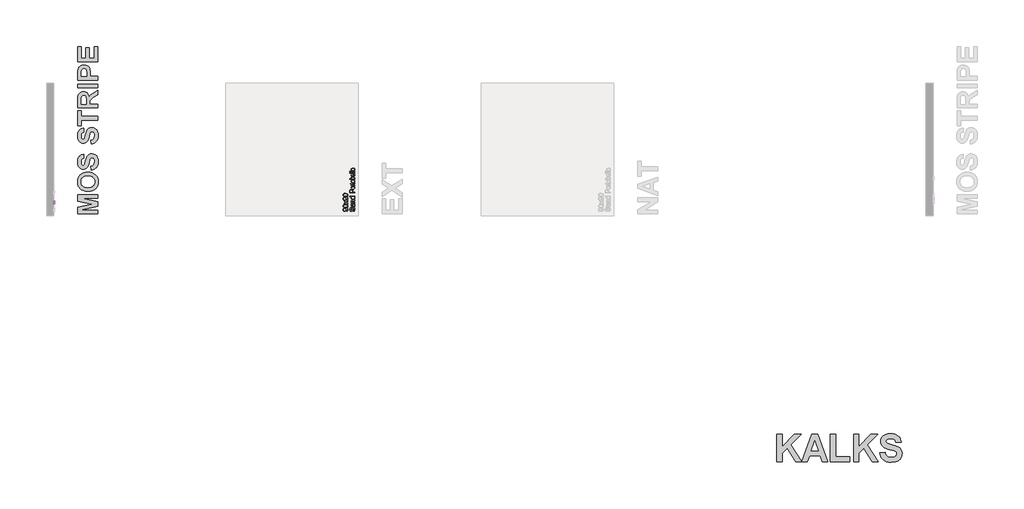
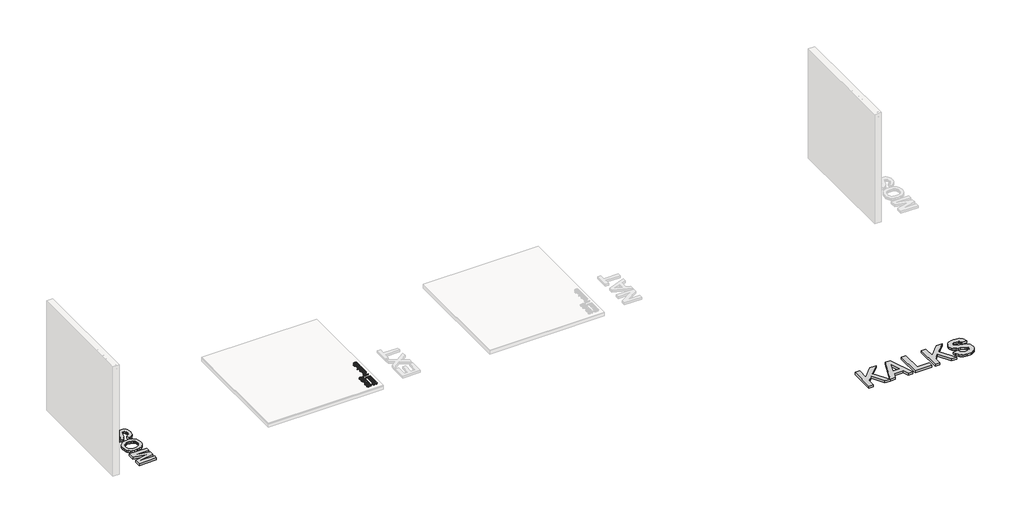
# One storey, part 2 of 19: 6 proxies.
"""IFC4 building model written with IfcOpenShell, lengths in millimetres."""

from ifc_helpers import new_model, si_unit, frame, origin, origin_with_axes, place, context, project, spatial, polyline, outline, extrude, element, save

model = new_model("IFC4")

# Units and contexts
model_context = context("Model", 3, world=origin())
ifc_project = project(units=[si_unit("LENGTHUNIT", "METRE", prefix="MILLI")], contexts=[model_context])

# Site, building, storey
site = spatial("IfcSite", under=ifc_project)
building = spatial("IfcBuilding", under=site)
storey = spatial("IfcBuildingStorey", under=building, Name="PORTOBELLO - SHOWROOM", Elevation=0.0)

# Proxies
placement = place(None, origin())
element("IfcBuildingElementProxy", 1, Name="10mm Arial", ObjectType="10mm Arial", at=placement, inside=storey, context=model_context, shape_type="SweptSolid", body=[
    extrude(outline(polyline([(-11603.2913328, -7006.5341901), (-11603.2913328, -6993.9771514), (-11590.7220313, -6989.9304494), (-11582.7757802, -6980.0466865), (-11579.7468851, -6964.9880502), (-11582.0400162, -6951.8669257), (-11588.3430611, -6943.393377), (-11596.7675588, -6940.6097366), (-11604.6034453, -6942.6944012), (-11610.3056162, -6951.2292635), (-11615.1003449, -6969.5129987), (-11621.2930251, -6989.1946854), (-11630.6372278, -6999.875526), (-11643.1206902, -7003.3949304), (-11657.3331979, -6999.0416602), (-11667.3641136, -6986.3252059), (-11670.7854162, -6967.7103769), (-11667.2046981, -6947.8447492), (-11656.683273, -6934.6009973), (-11640.9624491, -6929.6223277), (-11640.9624491, -6942.1793664), (-11648.4549791, -6944.4847603), (-11653.8628444, -6949.2917517), (-11658.2283774, -6967.2198676), (-11653.9118953, -6985.1970344), (-11643.4885721, -6990.8378917), (-11634.7820316, -6986.8402407), (-11627.7677482, -6966.3369508), (-11621.4647034, -6944.1168783), (-11611.2866348, -6931.9645097), (-11597.0863898, -6928.0526978), (-11582.0645417, -6932.5531209), (-11571.1016582, -6945.5025671), (-11567.1898463, -6964.4975408), (-11571.4082266, -6986.9260798), (-11584.1124181, -7001.1140621), (-11603.2913328, -7006.5341901)])), frame((0.0, 0.0, 18.0), z_axis=(0.0, 0.0, 1.0), x_axis=(1.0, 0.0, 0.0)), (0.0, 0.0, 1.0), 20.0),
    extrude(outline(polyline([(-11578.1772553, -6863.6978741), (-11569.6669185, -6875.8747682), (-11567.1898463, -6889.3269865), (-11568.6797684, -6899.8208204), (-11573.1495347, -6907.5616707), (-11579.9369575, -6912.3349396), (-11588.3798493, -6913.9260292), (-11598.3126631, -6911.5225335), (-11605.5231502, -6905.2072259), (-11609.6434286, -6896.4148462), (-11611.5318895, -6885.5500647), (-11615.8483716, -6863.7714505), (-11618.6442747, -6863.6978741), (-11627.914901, -6867.1559649), (-11631.54467, -6881.0373789), (-11629.1289116, -6893.7415704), (-11620.5572611, -6899.7993606), (-11622.126891, -6912.3563994), (-11634.3896241, -6906.9240086), (-11641.5755858, -6895.9856506), (-11644.1017088, -6879.4186981), (-11641.8698914, -6864.2006462), (-11636.2658223, -6855.6044703), (-11627.7432228, -6851.753972), (-11616.7558138, -6851.1408354), (-11601.1330918, -6851.1408354), (-11579.3176895, -6850.5031733), (-11568.7594762, -6848.0015757), (-11568.7594762, -6860.5586145), (-11578.1772553, -6863.6978741)]), holes=[polyline([(-11603.2913328, -6863.6978741), (-11599.4408346, -6883.9559093), (-11597.4052209, -6894.7593773), (-11594.0942829, -6899.6522078), (-11589.2627661, -6901.3689905), (-11582.4692119, -6897.6288568), (-11579.7468851, -6886.6537106), (-11582.7512547, -6873.9495191), (-11590.0230555, -6865.7580133), (-11599.7351402, -6863.7714505), (-11603.2913328, -6863.6978741)])]), frame((0.0, 0.0, 18.0), z_axis=(0.0, 0.0, 1.0), x_axis=(1.0, 0.0, 0.0)), (0.0, 0.0, 1.0), 20.0),
    extrude(outline(polyline([(-11568.7594762, -6833.8749071), (-11642.532079, -6833.8749071), (-11642.532079, -6821.3178683), (-11632.2313831, -6821.3178683), (-11641.1341274, -6811.7161482), (-11644.1017088, -6798.6072865), (-11641.7104758, -6786.7492235), (-11635.4319565, -6778.6558196), (-11626.1981184, -6774.8911605), (-11614.0580125, -6774.2289729), (-11568.7594762, -6774.2289729), (-11568.7594762, -6786.7860117), (-11612.3657554, -6786.7860117), (-11623.4757916, -6788.2330142), (-11629.3496408, -6793.3465739), (-11631.54467, -6801.9672754), (-11626.6150513, -6815.5911719), (-11619.4720092, -6819.8861942), (-11607.9021205, -6821.3178683), (-11568.7594762, -6821.3178683), (-11568.7594762, -6833.8749071)])), frame((0.0, 0.0, 18.0), z_axis=(0.0, 0.0, 1.0), x_axis=(1.0, 0.0, 0.0)), (0.0, 0.0, 1.0), 20.0),
    extrude(outline(polyline([(-11568.7594762, -6711.4437791), (-11580.6052764, -6711.4437791), (-11570.5437039, -6719.7517808), (-11567.1898463, -6731.2358304), (-11572.0458887, -6746.7849761), (-11585.5962088, -6757.772385), (-11605.5722012, -6761.6719341), (-11625.5604563, -6758.0789533), (-11639.3192429, -6747.3122736), (-11644.1017088, -6731.2848813), (-11640.6804063, -6719.7088612), (-11631.7899247, -6711.4437791), (-11669.2157863, -6711.4437791), (-11669.2157863, -6698.8867403), (-11568.7594762, -6698.8867403), (-11568.7594762, -6711.4437791)]), holes=[polyline([(-11605.6212521, -6749.1148954), (-11594.2628955, -6747.6985497), (-11586.18482, -6743.4495127), (-11581.3563688, -6737.2752265), (-11579.7468851, -6730.0831335), (-11581.2827924, -6722.8941062), (-11585.8905144, -6716.8761699), (-11593.6558902, -6712.8018768), (-11604.6647589, -6711.4437791), (-11616.7006315, -6712.8264022), (-11625.0454215, -6716.9742717), (-11629.9198579, -6723.1454922), (-11631.54467, -6730.5981683), (-11629.9842372, -6737.8638377), (-11625.3029389, -6743.8173947), (-11617.2616516, -6747.7905202), (-11605.6212521, -6749.1148954)])]), frame((0.0, 0.0, 18.0), z_axis=(0.0, 0.0, 1.0), x_axis=(1.0, 0.0, 0.0)), (0.0, 0.0, 1.0), 20.0),
])
element("IfcBuildingElementProxy", 2, Name="10mm Arial", ObjectType="10mm Arial", at=placement, inside=storey, context=model_context, shape_type="SweptSolid", body=[
    extrude(outline(polyline([(-11733.8735537, -7004.9645603), (-11735.4431836, -6992.4075215), (-11723.4624933, -6986.7666643), (-11719.7468851, -6976.0735609), (-11722.1381181, -6965.9077551), (-11728.5270021, -6959.0160991), (-11739.4408346, -6954.9080835), (-11754.0089616, -6953.093199), (-11756.4615082, -6953.1667754), (-11746.9456273, -6963.2099538), (-11743.2913328, -6976.9810032), (-11745.5231502, -6988.4313303), (-11752.2186026, -6997.9625397), (-11762.562218, -7004.3912775), (-11775.7385248, -7006.5341901), (-11789.3501586, -7004.2870443), (-11800.0187365, -6997.5456067), (-11806.9165239, -6987.4196548), (-11809.2157863, -6975.0189659), (-11803.9673365, -6957.1276382), (-11789.0068021, -6944.8158541), (-11760.9006176, -6940.6097366), (-11730.4032002, -6944.8035913), (-11720.4121384, -6950.0183186), (-11713.1250092, -6957.274791), (-11708.6736371, -6966.2603087), (-11707.1898463, -6976.6621721), (-11708.9403515, -6987.398195), (-11714.191867, -6995.9637141), (-11722.613299, -7001.9540593), (-11733.8735537, -7004.9645603)]), holes=[polyline([(-11776.0328304, -6953.1667754), (-11784.5431672, -6954.5218074), (-11791.0914667, -6958.5869034), (-11795.2669274, -6964.8960797), (-11796.6587476, -6972.9833522), (-11795.1596284, -6981.3710617), (-11790.6622711, -6988.0910394), (-11783.7798121, -6992.5056234), (-11775.1253881, -6993.9771514), (-11767.3661437, -6992.5853312), (-11761.207186, -6988.4098705), (-11757.1880752, -6981.8554396), (-11755.8483716, -6973.3267087), (-11761.207186, -6958.8444208), (-11767.5930043, -6954.5861867), (-11776.0328304, -6953.1667754)])]), frame((0.0, 0.0, 18.0), z_axis=(0.0, 0.0, 1.0), x_axis=(1.0, 0.0, 0.0)), (0.0, 0.0, 1.0), 20.0),
    extrude(outline(polyline([(-11758.1782909, -6929.6223277), (-11787.081553, -6925.931245), (-11803.7466074, -6914.9683615), (-11809.2157863, -6896.6601009), (-11805.9784248, -6881.993872), (-11796.6464848, -6871.8648544), (-11781.7840522, -6865.9787425), (-11758.1782909, -6863.6978741), (-11729.3976561, -6867.3521686), (-11712.6958135, -6878.2782639), (-11708.5663381, -6886.5096235), (-11707.1898463, -6896.6601009), (-11709.5810793, -6909.707649), (-11716.7547782, -6919.6159374), (-11733.744795, -6927.1207301), (-11758.1782909, -6929.6223277)]), holes=[polyline([(-11758.2028163, -6917.0652889), (-11738.4506189, -6915.5937609), (-11727.0186859, -6911.179177), (-11721.5648353, -6904.606352), (-11719.7468851, -6896.6601009), (-11721.5709667, -6888.7138498), (-11727.0432114, -6882.1410248), (-11738.4812757, -6877.7264409), (-11758.2028163, -6876.2549129), (-11777.5104897, -6877.67739), (-11789.0313275, -6881.9448211), (-11794.7518926, -6888.5053834), (-11796.6587476, -6896.8072537), (-11794.9787531, -6904.6676657), (-11789.9387698, -6910.9829733), (-11777.7005621, -6915.54471), (-11758.2028163, -6917.0652889)])]), frame((0.0, 0.0, 18.0), z_axis=(0.0, 0.0, 1.0), x_axis=(1.0, 0.0, 0.0)), (0.0, 0.0, 1.0), 20.0),
    extrude(outline(polyline([(-11708.7594762, -6857.4193548), (-11745.8665068, -6830.5884946), (-11782.532079, -6855.8497249), (-11782.532079, -6840.7910886), (-11764.8492177, -6828.6019318), (-11756.5350846, -6822.8874981), (-11763.3531643, -6817.9333539), (-11782.532079, -6804.05194), (-11782.532079, -6788.9442527), (-11745.8419813, -6815.4808073), (-11708.7594762, -6789.9252714), (-11708.7594762, -6805.0084332), (-11731.0776506, -6820.410426), (-11735.1734034, -6823.2063292), (-11708.7594762, -6842.3116675), (-11708.7594762, -6857.4193548)])), frame((0.0, 0.0, 18.0), z_axis=(0.0, 0.0, 1.0), x_axis=(1.0, 0.0, 0.0)), (0.0, 0.0, 1.0), 20.0),
    extrude(outline(polyline([(-11733.8735537, -6780.5074923), (-11735.4431836, -6767.9504535), (-11723.4624933, -6762.3095963), (-11719.7468851, -6751.6164929), (-11722.1381181, -6741.4506871), (-11728.5270021, -6734.5590311), (-11739.4408346, -6730.4510155), (-11754.0089616, -6728.636131), (-11756.4615082, -6728.7097074), (-11746.9456273, -6738.7528858), (-11743.2913328, -6752.5239352), (-11745.5231502, -6763.9742623), (-11752.2186026, -6773.5054717), (-11762.562218, -6779.9342095), (-11775.7385248, -6782.0771221), (-11789.3501586, -6779.8299763), (-11800.0187365, -6773.0885387), (-11806.9165239, -6762.9625868), (-11809.2157863, -6750.5618979), (-11803.9673365, -6732.6705702), (-11789.0068021, -6720.3587861), (-11760.9006176, -6716.1526686), (-11730.4032002, -6720.3465234), (-11720.4121384, -6725.5612506), (-11713.1250092, -6732.817723), (-11708.6736371, -6741.8032407), (-11707.1898463, -6752.2051041), (-11708.9403515, -6762.941127), (-11714.191867, -6771.5066462), (-11722.613299, -6777.4969913), (-11733.8735537, -6780.5074923)]), holes=[polyline([(-11776.0328304, -6728.7097074), (-11784.5431672, -6730.0647394), (-11791.0914667, -6734.1298354), (-11795.2669274, -6740.4390117), (-11796.6587476, -6748.5262842), (-11795.1596284, -6756.9139937), (-11790.6622711, -6763.6339715), (-11783.7798121, -6768.0485554), (-11775.1253881, -6769.5200834), (-11767.3661437, -6768.1282632), (-11761.207186, -6763.9528025), (-11757.1880752, -6757.3983716), (-11755.8483716, -6748.8696407), (-11761.207186, -6734.3873528), (-11767.5930043, -6730.1291187), (-11776.0328304, -6728.7097074)])]), frame((0.0, 0.0, 18.0), z_axis=(0.0, 0.0, 1.0), x_axis=(1.0, 0.0, 0.0)), (0.0, 0.0, 1.0), 20.0),
    extrude(outline(polyline([(-11758.1782909, -6705.1652597), (-11787.081553, -6701.474177), (-11803.7466074, -6690.5112935), (-11809.2157863, -6672.2030329), (-11805.9784248, -6657.536804), (-11796.6464848, -6647.4077864), (-11781.7840522, -6641.5216745), (-11758.1782909, -6639.2408062), (-11729.3976561, -6642.8951006), (-11712.6958135, -6653.8211959), (-11708.5663381, -6662.0525555), (-11707.1898463, -6672.2030329), (-11709.5810793, -6685.250581), (-11716.7547782, -6695.1588694), (-11733.744795, -6702.6636621), (-11758.1782909, -6705.1652597)]), holes=[polyline([(-11758.2028163, -6692.6082209), (-11738.4506189, -6691.1366929), (-11727.0186859, -6686.722109), (-11721.5648353, -6680.149284), (-11719.7468851, -6672.2030329), (-11721.5709667, -6664.2567818), (-11727.0432114, -6657.6839568), (-11738.4812757, -6653.2693729), (-11758.2028163, -6651.7978449), (-11777.5104897, -6653.220322), (-11789.0313275, -6657.4877531), (-11794.7518926, -6664.0483154), (-11796.6587476, -6672.3501857), (-11794.9787531, -6680.2105977), (-11789.9387698, -6686.5259053), (-11777.7005621, -6691.087642), (-11758.2028163, -6692.6082209)])]), frame((0.0, 0.0, 18.0), z_axis=(0.0, 0.0, 1.0), x_axis=(1.0, 0.0, 0.0)), (0.0, 0.0, 1.0), 20.0),
])
element("IfcBuildingElementProxy", 3, Name="10mm Arial", ObjectType="10mm Arial", at=placement, inside=storey, context=model_context, shape_type="SweptSolid", body=[
    extrude(outline(polyline([(-7011.3816689, 2410.158275), (-6998.8246301, 2411.7279049), (-6991.8961859, 2398.5086785), (-6978.9344769, 2394.4619766), (-6970.3260382, 2395.8537968), (-6963.6796368, 2400.0292574), (-6958.0142541, 2413.8125695), (-6963.6305859, 2426.798804), (-6977.9044073, 2431.9368892), (-6986.7090497, 2430.563463), (-6985.3110982, 2443.1205018), (-6983.3000099, 2442.973349), (-6969.050714, 2446.5785926), (-6964.3050362, 2451.152592), (-6962.7231437, 2457.6641034), (-6967.3094059, 2467.4865526), (-6979.1306806, 2471.373839), (-6991.0991082, 2467.4497644), (-6997.2550003, 2455.6775406), (-7009.812039, 2457.2471704), (-7006.114825, 2468.5227536), (-6999.5358686, 2476.9411199), (-6990.5350225, 2482.1834383), (-6979.572139, 2483.9308778), (-6964.4276636, 2480.4850498), (-6953.8326621, 2471.0672707), (-6950.1661049, 2458.3998673), (-6953.6487211, 2446.8238472), (-6963.949417, 2438.5097141), (-6950.2642067, 2429.9258009), (-6945.4572153, 2413.5918403), (-6947.860711, 2401.3536326), (-6955.0711982, 2391.1265132), (-6965.9543738, 2384.2103317), (-6979.3759353, 2381.9049378), (-6991.5160411, 2383.8731065), (-7001.3998041, 2389.7776125), (-7008.273066, 2398.8091155), (-7011.3816689, 2410.158275)])), frame((-17694.205047, 0.0, 0.0), z_axis=(1.0, 0.0, 0.0), x_axis=(0.0, 1.0, 0.0)), (0.0, 0.0, 1.0), 20.0),
    extrude(outline(polyline([(-6934.4698064, 2432.8933823), (-6930.7787237, 2461.7966444), (-6919.8158403, 2478.4616988), (-6901.5075797, 2483.9308778), (-6886.8413508, 2480.6935163), (-6876.7123332, 2471.3615763), (-6870.8262213, 2456.4991437), (-6868.5453529, 2432.8933823), (-6872.1996474, 2404.1127476), (-6883.1257426, 2387.410905), (-6891.3571023, 2383.2814296), (-6901.5075797, 2381.9049378), (-6914.5551277, 2384.2961708), (-6924.4634162, 2391.4698697), (-6931.9682089, 2408.4598865), (-6934.4698064, 2432.8933823)]), holes=[polyline([(-6921.9127677, 2432.9179078), (-6920.4412397, 2413.1657104), (-6916.0266557, 2401.7337774), (-6909.4538308, 2396.2799268), (-6901.5075797, 2394.4619766), (-6893.5613286, 2396.2860581), (-6886.9885036, 2401.7583028), (-6882.5739196, 2413.1963672), (-6881.1023917, 2432.9179078), (-6882.5248687, 2452.2255812), (-6886.7922998, 2463.746419), (-6893.3528621, 2469.466984), (-6901.6547325, 2471.373839), (-6909.5151444, 2469.6938446), (-6915.830452, 2464.6538613), (-6920.3921887, 2452.4156536), (-6921.9127677, 2432.9179078)])]), frame((-17694.205047, 0.0, 0.0), z_axis=(1.0, 0.0, 0.0), x_axis=(0.0, 1.0, 0.0)), (0.0, 0.0, 1.0), 20.0),
    extrude(outline(polyline([(-6862.2668335, 2383.4745677), (-6835.4359733, 2420.5815982), (-6860.6972037, 2457.2471704), (-6845.6385673, 2457.2471704), (-6833.4494105, 2439.5643092), (-6827.7349769, 2431.2501761), (-6822.7808327, 2438.0682557), (-6808.8994187, 2457.2471704), (-6793.7917315, 2457.2471704), (-6820.3282861, 2420.5570728), (-6794.7727501, 2383.4745677), (-6809.8559119, 2383.4745677), (-6825.2579048, 2405.792742), (-6828.053808, 2409.8884949), (-6847.1591462, 2383.4745677), (-6862.2668335, 2383.4745677)])), frame((-17694.205047, 0.0, 0.0), z_axis=(1.0, 0.0, 0.0), x_axis=(0.0, 1.0, 0.0)), (0.0, 0.0, 1.0), 20.0),
    extrude(outline(polyline([(-6786.9246009, 2410.158275), (-6774.3675621, 2411.7279049), (-6767.4391179, 2398.5086785), (-6754.4774089, 2394.4619766), (-6745.8689702, 2395.8537968), (-6739.2225688, 2400.0292574), (-6733.5571861, 2413.8125695), (-6739.1735179, 2426.798804), (-6753.4473393, 2431.9368892), (-6762.2519817, 2430.563463), (-6760.8540302, 2443.1205018), (-6758.8429419, 2442.973349), (-6744.593646, 2446.5785926), (-6739.8479682, 2451.152592), (-6738.2660757, 2457.6641034), (-6742.8523379, 2467.4865526), (-6754.6736126, 2471.373839), (-6766.6420402, 2467.4497644), (-6772.7979323, 2455.6775406), (-6785.354971, 2457.2471704), (-6781.657757, 2468.5227536), (-6775.0788006, 2476.9411199), (-6766.0779545, 2482.1834383), (-6755.115071, 2483.9308778), (-6739.9705956, 2480.4850498), (-6729.3755941, 2471.0672707), (-6725.7090369, 2458.3998673), (-6729.1916531, 2446.8238472), (-6739.492349, 2438.5097141), (-6725.8071388, 2429.9258009), (-6721.0001474, 2413.5918403), (-6723.4036431, 2401.3536326), (-6730.6141302, 2391.1265132), (-6741.4973059, 2384.2103317), (-6754.9188673, 2381.9049378), (-6767.0589732, 2383.8731065), (-6776.9427361, 2389.7776125), (-6783.815998, 2398.8091155), (-6786.9246009, 2410.158275)])), frame((-17694.205047, 0.0, 0.0), z_axis=(1.0, 0.0, 0.0), x_axis=(0.0, 1.0, 0.0)), (0.0, 0.0, 1.0), 20.0),
    extrude(outline(polyline([(-6710.0127384, 2432.8933823), (-6706.3216557, 2461.7966444), (-6695.3587723, 2478.4616988), (-6677.0505117, 2483.9308778), (-6662.3842828, 2480.6935163), (-6652.2552652, 2471.3615763), (-6646.3691533, 2456.4991437), (-6644.0882849, 2432.8933823), (-6647.7425794, 2404.1127476), (-6658.6686746, 2387.410905), (-6666.9000343, 2383.2814296), (-6677.0505117, 2381.9049378), (-6690.0980598, 2384.2961708), (-6700.0063482, 2391.4698697), (-6707.5111409, 2408.4598865), (-6710.0127384, 2432.8933823)]), holes=[polyline([(-6697.4556997, 2432.9179078), (-6695.9841717, 2413.1657104), (-6691.5695877, 2401.7337774), (-6684.9967628, 2396.2799268), (-6677.0505117, 2394.4619766), (-6669.1042606, 2396.2860581), (-6662.5314356, 2401.7583028), (-6658.1168516, 2413.1963672), (-6656.6453237, 2432.9179078), (-6658.0678007, 2452.2255812), (-6662.3352319, 2463.746419), (-6668.8957941, 2469.466984), (-6677.1976645, 2471.373839), (-6685.0580764, 2469.6938446), (-6691.373384, 2464.6538613), (-6695.9351207, 2452.4156536), (-6697.4556997, 2432.9179078)])]), frame((-17694.205047, 0.0, 0.0), z_axis=(1.0, 0.0, 0.0), x_axis=(0.0, 1.0, 0.0)), (0.0, 0.0, 1.0), 20.0),
])
element("IfcBuildingElementProxy", 4, Name="10mm Arial Narrow", ObjectType="10mm Arial Narrow", at=placement, inside=storey, context=model_context, shape_type="SweptSolid", body=[
    extrude(outline(polyline([(-11568.7594762, -6627.1065049), (-11669.4780799, -6627.1065049), (-11669.4780799, -6595.8096202), (-11667.5997592, -6579.5139187), (-11658.119316, -6568.0409326), (-11641.1002072, -6563.7512541), (-11629.0243817, -6565.5375625), (-11619.3979879, -6570.8964877), (-11613.0967295, -6580.6402765), (-11610.99631, -6595.5811758), (-11610.99631, -6617.3595432), (-11568.7594762, -6617.3595432), (-11568.7594762, -6627.1065049)]), holes=[polyline([(-11622.3677653, -6617.3595432), (-11622.3677653, -6594.3881883), (-11626.8985795, -6578.5239929), (-11640.5671703, -6573.4982158), (-11650.7329467, -6575.9730303), (-11656.5328965, -6581.9506591), (-11658.1066247, -6594.6166327), (-11658.1066247, -6617.3595432), (-11622.3677653, -6617.3595432)])]), frame((0.0, 0.0, 18.0), z_axis=(0.0, 0.0, 1.0), x_axis=(1.0, 0.0, 0.0)), (0.0, 0.0, 1.0), 20.0),
    extrude(outline(polyline([(-11605.3105824, -6555.6287861), (-11621.9013579, -6553.6743172), (-11633.8534428, -6547.8109106), (-11641.0779973, -6538.9523439), (-11643.4861822, -6528.0123947), (-11641.0779973, -6517.1993591), (-11633.8534428, -6508.3154097), (-11622.0917283, -6502.375855), (-11606.0720638, -6500.3960034), (-11588.9101772, -6502.3409537), (-11576.767722, -6508.1758048), (-11569.5431674, -6517.024853), (-11567.1349826, -6528.0123947), (-11569.5495131, -6538.8730229), (-11576.7931047, -6547.7474538), (-11588.7515352, -6553.658453), (-11605.3105824, -6555.6287861)]), holes=[polyline([(-11605.3359651, -6545.8818244), (-11592.7842137, -6544.5777876), (-11583.9129556, -6540.665677), (-11578.6396971, -6534.8244802), (-11576.8819442, -6527.7331849), (-11578.6555613, -6521.0131117), (-11583.9764124, -6515.3210384), (-11592.8635347, -6511.4374834), (-11605.3359651, -6510.142965), (-11617.8496424, -6511.4470019), (-11626.7082092, -6515.3591125), (-11631.9814677, -6521.2003092), (-11633.7392206, -6528.2916046), (-11631.9719492, -6535.0592703), (-11626.6701351, -6540.7418251), (-11617.8020499, -6544.5968246), (-11605.3359651, -6545.8818244)])]), frame((0.0, 0.0, 18.0), z_axis=(0.0, 0.0, 1.0), x_axis=(1.0, 0.0, 0.0)), (0.0, 0.0, 1.0), 20.0),
    extrude(outline(polyline([(-11576.8819442, -6428.9182846), (-11567.1349826, -6427.293791), (-11567.1349826, -6434.6547776), (-11569.2544391, -6442.929542), (-11575.0543889, -6447.2446031), (-11589.7002141, -6448.4122079), (-11632.1147269, -6448.4122079), (-11632.1147269, -6456.5346759), (-11635.3637142, -6456.5346759), (-11630.4902333, -6458.1591695), (-11632.1147269, -6465.7232179), (-11629.7922087, -6471.8023776), (-11623.3069257, -6475.6732413), (-11607.8996191, -6477.6530929), (-11568.7594762, -6477.6530929), (-11568.7594762, -6487.4000545), (-11641.8616886, -6487.4000545), (-11641.8616886, -6477.6530929), (-11632.1654924, -6477.6530929), (-11641.2525035, -6471.4089455), (-11643.4861822, -6465.012502), (-11641.8616886, -6456.5346759), (-11641.8616886, -6448.4122079), (-11658.1066247, -6448.4122079), (-11666.2290927, -6438.6652462), (-11641.8616886, -6438.6652462), (-11641.8616886, -6428.9182846), (-11632.1147269, -6428.9182846), (-11632.1147269, -6438.6652462), (-11587.4665354, -6438.6652462), (-11579.4709809, -6437.802234), (-11576.8819442, -6433.1825803), (-11576.8819442, -6428.9182846)])), frame((0.0, 0.0, 18.0), z_axis=(0.0, 0.0, 1.0), x_axis=(1.0, 0.0, 0.0)), (0.0, 0.0, 1.0), 20.0),
    extrude(outline(polyline([(-11605.3105824, -6422.4203101), (-11621.9013579, -6420.4658413), (-11633.8534428, -6414.6024347), (-11641.0779973, -6405.7438679), (-11643.4861822, -6394.8039188), (-11641.0779973, -6383.9908832), (-11633.8534428, -6375.1069338), (-11622.0917283, -6369.167379), (-11606.0720638, -6367.1875274), (-11588.9101772, -6369.1324778), (-11576.767722, -6374.9673289), (-11569.5431674, -6383.8163771), (-11567.1349826, -6394.8039188), (-11569.5495131, -6405.664547), (-11576.7931047, -6414.5389779), (-11588.7515352, -6420.4499771), (-11605.3105824, -6422.4203101)]), holes=[polyline([(-11605.3359651, -6412.6733485), (-11592.7842137, -6411.3693116), (-11583.9129556, -6407.457201), (-11578.6396971, -6401.6160043), (-11576.8819442, -6394.524709), (-11578.6555613, -6387.8046358), (-11583.9764124, -6382.1125625), (-11592.8635347, -6378.2290074), (-11605.3359651, -6376.9344891), (-11617.8496424, -6378.238526), (-11626.7082092, -6382.1506365), (-11631.9814677, -6387.9918333), (-11633.7392206, -6395.0831286), (-11631.9719492, -6401.8507944), (-11626.6701351, -6407.5333492), (-11617.8020499, -6411.3883487), (-11605.3359651, -6412.6733485)])]), frame((0.0, 0.0, 18.0), z_axis=(0.0, 0.0, 1.0), x_axis=(1.0, 0.0, 0.0)), (0.0, 0.0, 1.0), 20.0),
    extrude(outline(polyline([(-11568.7594762, -6344.4446169), (-11568.7594762, -6354.1915786), (-11669.4780799, -6354.1915786), (-11669.4780799, -6344.4446169), (-11634.0691958, -6344.4446169), (-11641.1509726, -6337.0455562), (-11643.4861822, -6327.8443229), (-11639.2853433, -6314.9625962), (-11626.5559129, -6305.6852147), (-11605.8690021, -6302.2077831), (-11589.4146586, -6304.1400421), (-11577.2119195, -6309.9368191), (-11569.6542168, -6318.3099414), (-11567.1349826, -6327.9712364), (-11569.749402, -6337.3120747), (-11577.5165121, -6344.4446169), (-11568.7594762, -6344.4446169)]), holes=[polyline([(-11605.8690021, -6344.4446169), (-11588.6214488, -6342.3632345), (-11579.8897957, -6336.4744452), (-11576.8819442, -6328.0220018), (-11578.6714255, -6322.0792742), (-11584.0398692, -6316.8409169), (-11605.4628787, -6311.9547447), (-11626.8985795, -6316.6632379), (-11632.0290603, -6321.9079409), (-11633.7392206, -6328.2250635), (-11631.9497393, -6334.2026924), (-11626.5812956, -6339.494988), (-11605.8690021, -6344.4446169)])]), frame((0.0, 0.0, 18.0), z_axis=(0.0, 0.0, 1.0), x_axis=(1.0, 0.0, 0.0)), (0.0, 0.0, 1.0), 20.0),
    extrude(outline(polyline([(-11591.5023867, -6250.2239876), (-11589.8778931, -6240.477026), (-11579.9913265, -6244.1765563), (-11572.8714756, -6249.9955432), (-11568.5691059, -6257.6991965), (-11567.1349826, -6267.0527261), (-11569.5495131, -6278.6462801), (-11576.7931047, -6287.7904023), (-11588.599239, -6293.7299571), (-11604.7013973, -6295.7098087), (-11621.368321, -6293.7204386), (-11633.5488502, -6287.7523282), (-11641.0018492, -6278.7382924), (-11643.4861822, -6267.6111458), (-11641.0875159, -6256.9281966), (-11633.8915168, -6248.1806792), (-11622.1520122, -6242.3458282), (-11606.1228292, -6240.4008778), (-11602.873842, -6240.477026), (-11602.873842, -6285.962847), (-11583.4306841, -6279.9598355), (-11578.5191292, -6274.0297992), (-11576.8819442, -6266.9258125), (-11580.5370549, -6256.7473448), (-11591.5023867, -6250.2239876)]), holes=[polyline([(-11612.6208036, -6285.3028965), (-11612.6208036, -6250.2239876), (-11626.8858881, -6254.4882833), (-11632.0258874, -6260.3136159), (-11633.7392206, -6267.5349976), (-11628.0281102, -6279.7440824), (-11612.6208036, -6285.3028965)])]), frame((0.0, 0.0, 18.0), z_axis=(0.0, 0.0, 1.0), x_axis=(1.0, 0.0, 0.0)), (0.0, 0.0, 1.0), 20.0),
    extrude(outline(polyline([(-11568.7594762, -6227.4810771), (-11669.4780799, -6227.4810771), (-11669.4780799, -6217.7341154), (-11568.7594762, -6217.7341154), (-11568.7594762, -6227.4810771)])), frame((0.0, 0.0, 18.0), z_axis=(0.0, 0.0, 1.0), x_axis=(1.0, 0.0, 0.0)), (0.0, 0.0, 1.0), 20.0),
    extrude(outline(polyline([(-11568.7594762, -6201.4891793), (-11669.4780799, -6201.4891793), (-11669.4780799, -6191.7422177), (-11568.7594762, -6191.7422177), (-11568.7594762, -6201.4891793)])), frame((0.0, 0.0, 18.0), z_axis=(0.0, 0.0, 1.0), x_axis=(1.0, 0.0, 0.0)), (0.0, 0.0, 1.0), 20.0),
    extrude(outline(polyline([(-11605.3105824, -6180.3707624), (-11621.9013579, -6178.4162935), (-11633.8534428, -6172.5528869), (-11641.0779973, -6163.6943202), (-11643.4861822, -6152.7543711), (-11641.0779973, -6141.9413355), (-11633.8534428, -6133.0573861), (-11622.0917283, -6127.1178313), (-11606.0720638, -6125.1379797), (-11588.9101772, -6127.0829301), (-11576.767722, -6132.9177811), (-11569.5431674, -6141.7668293), (-11567.1349826, -6152.7543711), (-11569.5495131, -6163.6149992), (-11576.7931047, -6172.4894301), (-11588.7515352, -6178.4004294), (-11605.3105824, -6180.3707624)]), holes=[polyline([(-11605.3359651, -6170.6238008), (-11592.7842137, -6169.3197639), (-11583.9129556, -6165.4076533), (-11578.6396971, -6159.5664566), (-11576.8819442, -6152.4751612), (-11578.6555613, -6145.7550881), (-11583.9764124, -6140.0630147), (-11592.8635347, -6136.1794597), (-11605.3359651, -6134.8849414), (-11617.8496424, -6136.1889782), (-11626.7082092, -6140.1010888), (-11631.9814677, -6145.9422856), (-11633.7392206, -6153.0335809), (-11631.9719492, -6159.8012467), (-11626.6701351, -6165.4838015), (-11617.8020499, -6169.3388009), (-11605.3359651, -6170.6238008)])]), frame((0.0, 0.0, 18.0), z_axis=(0.0, 0.0, 1.0), x_axis=(1.0, 0.0, 0.0)), (0.0, 0.0, 1.0), 20.0),
])
element("IfcBuildingElementProxy", 5, Name="400mm Arial", ObjectType="400mm Arial", at=placement, inside=storey, context=model_context, shape_type="SweptSolid", body=[
    extrude(outline(polyline([(-16798.5507631, -7057.4361951), (-17206.6545231, -7057.4361951), (-17206.6545231, -6924.4380948), (-16928.3099447, -6859.8621526), (-17206.6545231, -6795.4886428), (-17206.6545231, -6662.2881101), (-16798.5507631, -6662.2881101), (-16798.5507631, -6740.0221596), (-17119.8110147, -6743.2610783), (-16798.5507631, -6814.314858), (-16798.5507631, -6905.2070148), (-17119.8110147, -6976.4632269), (-16798.5507631, -6979.7021456), (-16798.5507631, -7057.4361951)])), origin_with_axes(), (0.0, 0.0, 1.0), 50.0),
    extrude(outline(polyline([(-17000.0722379, -6597.5097355), (-17057.3100048, -6592.9297019), (-17104.5273669, -6579.1896014), (-17134.0192402, -6563.0329638), (-17160.3481069, -6541.8914279), (-17181.8945077, -6517.1314124), (-17197.0389831, -6490.1193363), (-17209.1090162, -6449.7846765), (-17213.1323606, -6403.6806927), (-17209.6435643, -6361.6127053), (-17199.1771756, -6323.9729271), (-17181.7331943, -6290.7613581), (-17157.3116206, -6261.9779983), (-17126.6779019, -6238.7299), (-17090.597486, -6222.1241155), (-17049.0703727, -6212.1606448), (-17002.0965621, -6208.8394879), (-16955.4422151, -6212.1353407), (-16914.1649794, -6222.0228992), (-16878.2648548, -6238.5021635), (-16847.7418413, -6261.5731334), (-16823.3866907, -6290.1667128), (-16805.9901546, -6323.2138055), (-16795.5522329, -6360.7144114), (-16792.0729257, -6402.6685306), (-16795.5364179, -6445.0654707), (-16805.9268944, -6482.8823773), (-16823.2443554, -6516.1192503), (-16847.4888008, -6544.7760899), (-16877.8062188, -6567.8470598), (-16913.3425976, -6584.3263241), (-16954.0979373, -6594.2138826), (-17000.0722379, -6597.5097355)]), holes=[polyline([(-17002.9062917, -6519.7756859), (-16970.6246467, -6517.7102426), (-16942.5055182, -6511.5139128), (-16918.5489065, -6501.1866963), (-16898.7548113, -6486.7285933), (-16883.2560791, -6469.0885056), (-16872.1855561, -6449.2153353), (-16865.5432423, -6427.1090824), (-16863.3291377, -6402.7697468), (-16865.5274273, -6378.4557153), (-16872.122296, -6356.4253745), (-16883.1137438, -6336.6787245), (-16898.5017708, -6319.2157652), (-16918.2863769, -6304.9347905), (-16942.4675622, -6294.7340943), (-16971.0453265, -6288.6136766), (-17004.0196701, -6286.5735374), (-17036.5353776, -6288.5599055), (-17064.64818, -6294.5190099), (-17088.3580773, -6304.4508505), (-17107.6650694, -6318.3554274), (-17122.6324165, -6335.5495311), (-17133.3233787, -6355.3499523), (-17139.7379561, -6377.7566908), (-17141.8761485, -6402.7697468), (-17139.712652, -6427.8081068), (-17133.2221625, -6450.2907576), (-17122.40468, -6470.217699), (-17107.2602046, -6487.5889311), (-17087.7571061, -6501.6706363), (-17063.8637544, -6511.7289972), (-17035.5801496, -6517.7640138), (-17002.9062917, -6519.7756859)])]), origin_with_axes(), (0.0, 0.0, 1.0), 50.0),
    extrude(outline(polyline([(-16934.5853498, -6163.4946256), (-16941.0631872, -6085.7605761), (-16906.295419, -6074.4243606), (-16882.1553528, -6055.395713), (-16868.0356915, -6028.5481132), (-16863.3291377, -5993.7550409), (-16867.4916544, -5957.6461579), (-16879.9792043, -5931.709504), (-16898.0336458, -5916.0715995), (-16918.8968372, -5910.8589647), (-16932.1182047, -5913.0224612), (-16943.2393358, -5919.5129507), (-16952.6397913, -5931.4185074), (-16960.699132, -5949.8272057), (-16978.007104, -6017.2372017), (-16995.8970692, -6074.7786173), (-17006.3413169, -6095.9960654), (-17017.7850747, -6112.178007), (-17035.5042375, -6128.9609199), (-17055.0579441, -6140.9487148), (-17076.4461946, -6148.1413917), (-17099.6689888, -6150.5389507), (-17129.7302033, -6146.1360456), (-17157.7670935, -6132.9273301), (-17181.578207, -6111.4188854), (-17198.9620911, -6082.1167925), (-17209.5897932, -6045.5018285), (-17213.1323606, -6002.0547702), (-17210.924582, -5966.1135265), (-17204.3012462, -5934.9104667), (-17193.2623533, -5908.4455907), (-17177.8079032, -5886.7188985), (-17158.6717134, -5869.6608041), (-17136.5876015, -5857.2017212), (-17111.5555675, -5849.3416499), (-17083.5756114, -5846.0805901), (-17083.5756114, -5923.8146396), (-17110.2840389, -5932.4053655), (-17128.2625682, -5947.2461923), (-17138.4727534, -5969.703539), (-17141.8761485, -6001.1438243), (-17138.257669, -6034.2415251), (-17127.4022304, -6059.241929), (-17116.5214878, -6069.4141582), (-17102.5030427, -6072.8049012), (-17089.2690232, -6069.7178068), (-17078.109936, -6060.4565235), (-17065.0403929, -6033.5709677), (-17051.5406808, -5984.2913253), (-17037.4969316, -5931.696852), (-17022.7952771, -5894.8668035), (-17004.9938761, -5869.0566698), (-16981.6508876, -5849.5219412), (-16952.475315, -5837.2241717), (-16917.1761616, -5833.1249152), (-16883.4711636, -5837.9706412), (-16851.9929222, -5852.5078194), (-16825.5248832, -5875.9140681), (-16806.8504924, -5907.3670054), (-16795.7673173, -5947.2082362), (-16792.0729257, -5995.7793651), (-16794.3471274, -6032.1033326), (-16801.1697326, -6063.9484828), (-16812.5407412, -6091.3148157), (-16828.4601533, -6114.2023312), (-16848.7381884, -6132.7691798), (-16873.1850662, -6147.1735117), (-16901.8007867, -6157.415327), (-16934.5853498, -6163.4946256)])), origin_with_axes(), (0.0, 0.0, 1.0), 50.0),
    extrude(outline(polyline([(-16934.5853498, -5632.3119539), (-16941.0631872, -5554.5779044), (-16906.295419, -5543.2416888), (-16882.1553528, -5524.2130413), (-16868.0356915, -5497.3654415), (-16863.3291377, -5462.5723692), (-16867.4916544, -5426.4634862), (-16879.9792043, -5400.5268323), (-16898.0336458, -5384.8889278), (-16918.8968372, -5379.676293), (-16932.1182047, -5381.8397895), (-16943.2393358, -5388.330279), (-16952.6397913, -5400.2358357), (-16960.699132, -5418.6445339), (-16978.007104, -5486.05453), (-16995.8970692, -5543.5959456), (-17006.3413169, -5564.8133937), (-17017.7850747, -5580.9953353), (-17035.5042375, -5597.7782482), (-17055.0579441, -5609.7660431), (-17076.4461946, -5616.95872), (-17099.6689888, -5619.356279), (-17129.7302033, -5614.9533738), (-17157.7670935, -5601.7446584), (-17181.578207, -5580.2362137), (-17198.9620911, -5550.9341208), (-17209.5897932, -5514.3191567), (-17213.1323606, -5470.8720985), (-17210.924582, -5434.9308548), (-17204.3012462, -5403.7277949), (-17193.2623533, -5377.262919), (-17177.8079032, -5355.5362268), (-17158.6717134, -5338.4781324), (-17136.5876015, -5326.0190495), (-17111.5555675, -5318.1589781), (-17083.5756114, -5314.8979184), (-17083.5756114, -5392.6319679), (-17110.2840389, -5401.2226937), (-17128.2625682, -5416.0635206), (-17138.4727534, -5438.5208672), (-17141.8761485, -5469.9611526), (-17138.257669, -5503.0588533), (-17127.4022304, -5528.0592573), (-17116.5214878, -5538.2314864), (-17102.5030427, -5541.6222295), (-17089.2690232, -5538.5351351), (-17078.109936, -5529.2738518), (-17065.0403929, -5502.3882959), (-17051.5406808, -5453.1086536), (-17037.4969316, -5400.5141803), (-17022.7952771, -5363.6841317), (-17004.9938761, -5337.8739981), (-16981.6508876, -5318.3392695), (-16952.475315, -5306.0415), (-16917.1761616, -5301.9422435), (-16883.4711636, -5306.7879695), (-16851.9929222, -5321.3251477), (-16825.5248832, -5344.7313964), (-16806.8504924, -5376.1843337), (-16795.7673173, -5416.0255645), (-16792.0729257, -5464.5966934), (-16794.3471274, -5500.9206609), (-16801.1697326, -5532.7658111), (-16812.5407412, -5560.1321439), (-16828.4601533, -5583.0196595), (-16848.7381884, -5601.5865081), (-16873.1850662, -5615.99084), (-16901.8007867, -5626.2326553), (-16934.5853498, -5632.3119539)])), origin_with_axes(), (0.0, 0.0, 1.0), 50.0),
    extrude(outline(polyline([(-16798.5507631, -5146.4741444), (-17135.398311, -5146.4741444), (-17135.398311, -5263.0752187), (-17206.6545231, -5263.0752187), (-17206.6545231, -4952.1390206), (-17135.398311, -4952.1390206), (-17135.398311, -5068.7400949), (-16798.5507631, -5068.7400949), (-16798.5507631, -5146.4741444)])), origin_with_axes(), (0.0, 0.0, 1.0), 50.0),
    extrude(outline(polyline([(-16798.5507631, -4900.3163209), (-17206.6545231, -4900.3163209), (-17206.6545231, -4728.6536282), (-17203.8963814, -4672.731672), (-17195.6219562, -4634.5225526), (-17180.2877003, -4608.1051218), (-17156.3500666, -4587.5582311), (-17126.0611156, -4574.3495156), (-17091.6729082, -4569.9466105), (-17069.6014483, -4571.5376028), (-17049.5416606, -4576.3105797), (-17031.4935451, -4584.2655412), (-17015.4571018, -4595.4024874), (-17001.8182175, -4609.7087661), (-16990.9627789, -4627.1717254), (-16982.8907862, -4647.7913652), (-16977.6022392, -4671.5676856), (-16961.3570374, -4649.0217748), (-16943.5935925, -4630.7775529), (-16917.859371, -4611.9007296), (-16877.7018396, -4587.4570148), (-16798.5507631, -4537.5574232), (-16798.5507631, -4628.3483638), (-16891.7708928, -4687.4586306), (-16947.0855518, -4733.8662631), (-16956.6884397, -4746.7460258), (-16962.7234563, -4760.3849102), (-16966.9745371, -4804.7682184), (-16966.9745371, -4822.5822714), (-16798.5507631, -4822.5822714), (-16798.5507631, -4900.3163209)]), holes=[polyline([(-17038.2307491, -4822.5822714), (-17038.2307491, -4758.5124103), (-17039.4073876, -4707.9422612), (-17042.9373029, -4680.7277527), (-17049.3392282, -4666.8864359), (-17059.1318966, -4656.4358622), (-17072.0496154, -4649.8694605), (-17087.8266922, -4647.68066), (-17105.2991405, -4650.565322), (-17119.0518931, -4659.219308), (-17128.7559972, -4673.1365369), (-17134.0825003, -4691.8109277), (-17135.398311, -4754.9698429), (-17135.398311, -4822.5822714), (-17038.2307491, -4822.5822714)])]), origin_with_axes(), (0.0, 0.0, 1.0), 50.0),
    extrude(outline(polyline([(-16798.5507631, -4492.2125609), (-17206.6545231, -4492.2125609), (-17206.6545231, -4414.4785114), (-16798.5507631, -4414.4785114), (-16798.5507631, -4492.2125609)])), origin_with_axes(), (0.0, 0.0, 1.0), 50.0),
    extrude(outline(polyline([(-16798.5507631, -4336.7444619), (-17206.6545231, -4336.7444619), (-17206.6545231, -4205.2646047), (-17205.13628, -4143.4974124), (-17200.5815505, -4107.7933942), (-17186.0949804, -4075.7205075), (-17160.8541879, -4049.3410327), (-17144.4350208, -4039.0454463), (-17125.7954231, -4031.691456), (-17104.9353947, -4027.2790619), (-17081.8549358, -4025.8082638), (-17047.4793804, -4029.262267), (-17019.0502773, -4039.6242765), (-16996.3272381, -4055.3127891), (-16979.0698742, -4074.7463015), (-16966.9871891, -4096.2167901), (-16959.7881862, -4118.0162314), (-16955.4611932, -4154.5805874), (-16954.0188622, -4204.5560912), (-16954.0188622, -4259.0104124), (-16798.5507631, -4259.0104124), (-16798.5507631, -4336.7444619)]), holes=[polyline([(-17135.398311, -4259.0104124), (-17025.2750742, -4259.0104124), (-17025.2750742, -4210.7302801), (-17026.7933174, -4167.2452657), (-17031.3480468, -4141.0429193), (-17039.1543471, -4125.3797107), (-17050.4273025, -4113.5121101), (-17064.4837037, -4106.0347625), (-17080.6403413, -4103.5423133), (-17099.9473334, -4107.0469246), (-17115.5599338, -4117.5607585), (-17126.7443251, -4133.4137474), (-17132.7666896, -4152.935824), (-17135.398311, -4216.3983878), (-17135.398311, -4259.0104124)])]), origin_with_axes(), (0.0, 0.0, 1.0), 50.0),
    extrude(outline(polyline([(-16798.5507631, -3961.0298892), (-17206.6545231, -3961.0298892), (-17206.6545231, -3656.5715286), (-17135.398311, -3656.5715286), (-17135.398311, -3883.2958397), (-17044.7085866, -3883.2958397), (-17044.7085866, -3669.5272035), (-16973.4523745, -3669.5272035), (-16973.4523745, -3883.2958397), (-16869.8069752, -3883.2958397), (-16869.8069752, -3650.0936911), (-16798.5507631, -3650.0936911), (-16798.5507631, -3961.0298892)])), origin_with_axes(), (0.0, 0.0, 1.0), 50.0),
])
element("IfcBuildingElementProxy", 6, Name="550mm Arial", ObjectType="550mm Arial", at=placement, inside=storey, context=model_context, shape_type="SweptSolid", body=[
    extrude(outline(polyline([(-2974.31771, -12102.6873012), (-2974.31771, -11541.5446312), (-2867.4333919, -11541.5446312), (-2867.4333919, -11797.3432987), (-2626.6653316, -11541.5446312), (-2479.9777388, -11541.5446312), (-2692.3546521, -11755.8699566), (-2471.0707123, -12102.6873012), (-2596.047428, -12102.6873012), (-2761.8016244, -11826.1519626), (-2867.4333919, -11932.8971084), (-2867.4333919, -12102.6873012), (-2974.31771, -12102.6873012)])), origin_with_axes(), (0.0, 0.0, 1.0), 50.0),
    extrude(outline(polyline([(-1941.1026351, -12102.6873012), (-2053.4146725, -12102.6873012), (-2097.3931159, -11977.9889301), (-2309.21334, -11977.9889301), (-2352.6350942, -12102.6873012), (-2466.6171991, -12102.6873012), (-2262.033934, -11541.5446312), (-2147.9126569, -11541.5446312), (-1941.1026351, -12102.6873012)]), holes=[polyline([(-2131.629499, -11880.0116385), (-2203.8599171, -11675.1500288), (-2275.1161292, -11880.0116385), (-2131.629499, -11880.0116385)])]), origin_with_axes(), (0.0, 0.0, 1.0), 50.0),
    extrude(outline(polyline([(-1887.6604761, -12102.6873012), (-1887.6604761, -11541.5446312), (-1780.776158, -11541.5446312), (-1780.776158, -12004.7100096), (-1495.7513098, -12004.7100096), (-1495.7513098, -12102.6873012), (-1887.6604761, -12102.6873012)])), origin_with_axes(), (0.0, 0.0, 1.0), 50.0),
    extrude(outline(polyline([(-1415.5880712, -12102.6873012), (-1415.5880712, -11541.5446312), (-1308.7037531, -11541.5446312), (-1308.7037531, -11797.3432987), (-1067.9356928, -11541.5446312), (-921.2481, -11541.5446312), (-1133.6250133, -11755.8699566), (-912.3410735, -12102.6873012), (-1037.3177892, -12102.6873012), (-1203.0719856, -11826.1519626), (-1308.7037531, -11932.8971084), (-1308.7037531, -12102.6873012), (-1415.5880712, -12102.6873012)])), origin_with_axes(), (0.0, 0.0, 1.0), 50.0),
    extrude(outline(polyline([(-881.1664807, -11915.6397445), (-774.2821626, -11906.732718), (-767.8106512, -11932.462195), (-758.6948663, -11954.5383994), (-746.9348078, -11972.9613311), (-732.5304759, -11987.7309903), (-715.4383791, -11999.0561354), (-695.6150262, -12007.1455247), (-673.0604171, -12011.9991583), (-647.7745518, -12013.6170361), (-621.2013428, -12012.186171), (-598.1248376, -12007.8935757), (-578.5450362, -12000.7392502), (-562.4619385, -11990.7231945), (-549.9190359, -11978.7935199), (-540.9598198, -11965.8983375), (-535.5842902, -11952.0376473), (-533.7924469, -11937.2114494), (-536.7672546, -11919.0320691), (-545.6916777, -11903.7405138), (-562.0618182, -11890.8148875), (-587.3737783, -11879.7332939), (-680.0625229, -11855.9348325), (-723.0841568, -11844.3226446), (-759.1819693, -11831.3361304), (-788.3559604, -11816.9752898), (-810.6061301, -11801.2401228), (-833.6826353, -11776.876274), (-850.1658533, -11749.9899273), (-860.0557841, -11720.581083), (-863.3524277, -11688.6497409), (-857.2984331, -11647.315571), (-839.1364494, -11608.7648469), (-825.688927, -11591.2900263), (-809.562338, -11576.0245659), (-790.7566824, -11562.9684655), (-769.2719602, -11552.1217252), (-718.9263846, -11537.5086348), (-659.1866795, -11532.6376047), (-609.7674694, -11535.6733003), (-566.8632622, -11544.7803869), (-530.4740577, -11559.9588647), (-500.599856, -11581.2087336), (-477.1449761, -11607.5209946), (-460.0137371, -11637.8866484), (-449.2061391, -11672.3056952), (-444.7221819, -11710.7781349), (-551.6065, -11710.7781349), (-563.418748, -11674.0540471), (-572.5475803, -11660.1933569), (-583.8248849, -11649.3335692), (-597.7203681, -11641.1441498), (-614.7037366, -11635.2945645), (-657.9341289, -11630.6148963), (-703.4434675, -11635.5903056), (-722.0229681, -11641.8095673), (-737.8190229, -11650.5165336), (-751.8058379, -11665.4775547), (-756.4681096, -11684.7529168), (-752.2233548, -11702.9496936), (-739.4890903, -11718.2934385), (-724.8542543, -11727.2048141), (-702.521451, -11736.2640603), (-634.7619427, -11754.8261644), (-562.444542, -11774.1363195), (-511.8032252, -11794.3510945), (-476.3142915, -11818.8280209), (-449.4540397, -11850.9246301), (-439.5902037, -11869.9303458), (-432.5446066, -11891.0410424), (-426.9081288, -11939.5773783), (-428.5738472, -11963.1322882), (-433.5710022, -11985.9217506), (-441.8995939, -12007.9457653), (-453.5596222, -12029.2043325), (-468.2683935, -12048.7406426), (-485.7432141, -12065.5978861), (-505.9840839, -12079.7760631), (-528.991003, -12091.2751735), (-554.8813979, -12100.1648035), (-583.7726953, -12106.5145391), (-650.5579976, -12111.5943277), (-700.5034528, -12108.4673003), (-744.2905343, -12099.0862182), (-781.919242, -12083.4510813), (-813.3895759, -12061.5618897), (-838.9189927, -12033.6795914), (-858.7249491, -12000.0651345), (-872.8074451, -11960.7185188), (-881.1664807, -11915.6397445)])), origin_with_axes(), (0.0, 0.0, 1.0), 50.0),
])

save(model, "model.ifc")
